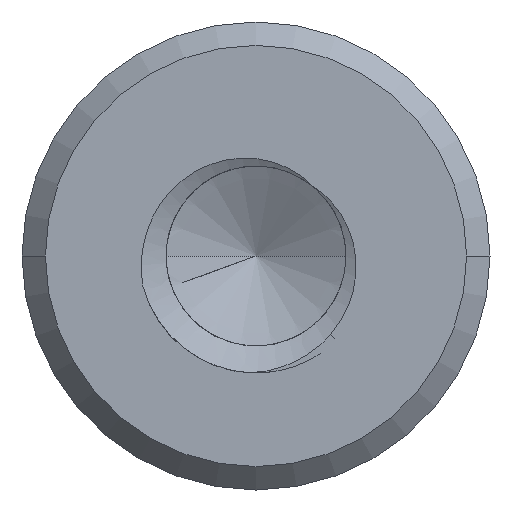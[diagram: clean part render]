
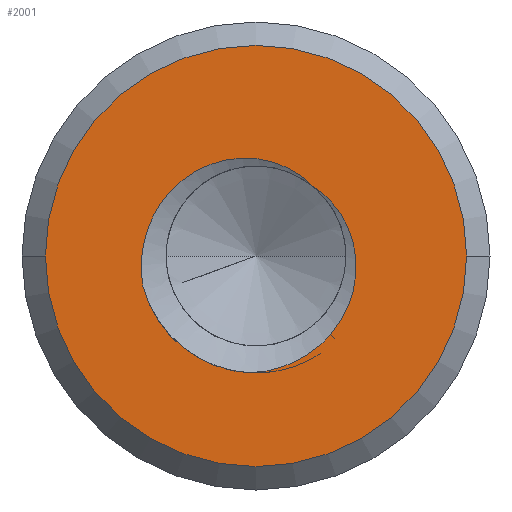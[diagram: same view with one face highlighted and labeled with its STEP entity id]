
A CAD part, front view. The second image highlights one B-rep face of the part: STEP entity #2001.
In plain terms, the highlighted planar face has unit normal (0, -1, 0).
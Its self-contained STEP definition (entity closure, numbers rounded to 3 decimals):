
#1=CARTESIAN_POINT('',(0.,-6.35,0.));
#2=DIRECTION('',(0.,-1.,0.));
#3=DIRECTION('',(1.,0.,0.));
#4=AXIS2_PLACEMENT_3D('',#1,#2,#3);
#6=CARTESIAN_POINT('',(0.,-6.35,0.));
#7=DIRECTION('',(0.,-1.,0.));
#8=DIRECTION('',(-1.,0.,0.));
#9=AXIS2_PLACEMENT_3D('',#6,#7,#8);
#11=CARTESIAN_POINT('',(0.,-6.35,0.));
#12=DIRECTION('',(0.,1.,0.));
#13=DIRECTION('',(-0.054,0.,-0.999));
#14=AXIS2_PLACEMENT_3D('',#11,#12,#13);
#1724=CARTESIAN_POINT('',(0.954,-6.35,-1.008));
#1725=CARTESIAN_POINT('',(0.991,-6.35,-0.965));
#1726=CARTESIAN_POINT('',(1.059,-6.35,-0.877));
#1727=CARTESIAN_POINT('',(1.145,-6.35,-0.731));
#1728=CARTESIAN_POINT('',(1.211,-6.35,-0.575));
#1729=CARTESIAN_POINT('',(1.257,-6.35,-0.414));
#1730=CARTESIAN_POINT('',(1.283,-6.35,-0.247));
#1731=CARTESIAN_POINT('',(1.286,-6.35,-0.067));
#1732=CARTESIAN_POINT('',(1.261,-6.35,0.128));
#1733=CARTESIAN_POINT('',(1.199,-6.35,0.338));
#1734=CARTESIAN_POINT('',(1.086,-6.35,0.555));
#1735=CARTESIAN_POINT('',(0.927,-6.35,0.748));
#1736=CARTESIAN_POINT('',(0.799,-6.35,0.85));
#1737=CARTESIAN_POINT('',(0.728,-6.35,0.895));
#1743=CARTESIAN_POINT('',(-0.081,-6.35,-1.498));
#1744=CARTESIAN_POINT('',(-0.018,-6.35,-1.495));
#1745=CARTESIAN_POINT('',(0.102,-6.35,-1.483));
#1746=CARTESIAN_POINT('',(0.265,-6.35,-1.446));
#1747=CARTESIAN_POINT('',(0.418,-6.35,-1.394));
#1748=CARTESIAN_POINT('',(0.568,-6.35,-1.323));
#1749=CARTESIAN_POINT('',(0.71,-6.35,-1.234));
#1750=CARTESIAN_POINT('',(0.842,-6.35,-1.128));
#1751=CARTESIAN_POINT('',(0.918,-6.35,-1.049));
#1752=CARTESIAN_POINT('',(0.954,-6.35,-1.008));
#1758=CARTESIAN_POINT('',(0.728,-6.35,0.895));
#1759=CARTESIAN_POINT('',(0.67,-6.35,0.955));
#1760=CARTESIAN_POINT('',(0.544,-6.35,1.06));
#1761=CARTESIAN_POINT('',(0.321,-6.35,1.177));
#1762=CARTESIAN_POINT('',(0.069,-6.35,1.247));
#1763=CARTESIAN_POINT('',(-0.189,-6.35,1.263));
#1764=CARTESIAN_POINT('',(-0.454,-6.35,1.224));
#1765=CARTESIAN_POINT('',(-0.708,-6.35,1.131));
#1766=CARTESIAN_POINT('',(-0.944,-6.35,0.983));
#1767=CARTESIAN_POINT('',(-1.138,-6.35,0.795));
#1768=CARTESIAN_POINT('',(-1.277,-6.35,0.597));
#1769=CARTESIAN_POINT('',(-1.373,-6.35,0.4));
#1770=CARTESIAN_POINT('',(-1.435,-6.35,0.205));
#1771=CARTESIAN_POINT('',(-1.468,-6.35,0.01));
#1772=CARTESIAN_POINT('',(-1.474,-6.35,-0.188));
#1773=CARTESIAN_POINT('',(-1.461,-6.35,-0.32));
#1774=CARTESIAN_POINT('',(-1.45,-6.35,-0.385));
#1955=CARTESIAN_POINT('',(2.7,-6.35,0.));
#1956=CARTESIAN_POINT('',(-2.7,-6.35,0.));
#1957=VERTEX_POINT('',#1955);
#1958=VERTEX_POINT('',#1956);
#1976=VERTEX_POINT('',#1724);
#1977=VERTEX_POINT('',#1737);
#1978=VERTEX_POINT('',#1774);
#1979=VERTEX_POINT('',#1743);
#1980=CARTESIAN_POINT('',(0.,-6.35,0.));
#1981=DIRECTION('',(0.,1.,0.));
#1982=DIRECTION('',(1.,0.,0.));
#1983=AXIS2_PLACEMENT_3D('',#1980,#1981,#1982);
#1984=PLANE('',#1983);
#1986=ORIENTED_EDGE('',*,*,#1985,.F.);
#1988=ORIENTED_EDGE('',*,*,#1987,.F.);
#1989=EDGE_LOOP('',(#1986,#1988));
#1990=FACE_OUTER_BOUND('',#1989,.F.);
#1992=ORIENTED_EDGE('',*,*,#1991,.F.);
#1994=ORIENTED_EDGE('',*,*,#1993,.T.);
#1996=ORIENTED_EDGE('',*,*,#1995,.T.);
#1998=ORIENTED_EDGE('',*,*,#1997,.T.);
#1999=EDGE_LOOP('',(#1992,#1994,#1996,#1998));
#2000=FACE_BOUND('',#1999,.F.);
#2001=ADVANCED_FACE('',(#1990,#2000),#1984,.F.);
#5=CIRCLE('',#4,2.7);
#10=CIRCLE('',#9,2.7);
#15=CIRCLE('',#14,1.5);
#1738=B_SPLINE_CURVE_WITH_KNOTS('',3,(#1724,#1725,#1726,#1727,#1728,#1729,#1730,
#1731,#1732,#1733,#1734,#1735,#1736,#1737),.UNSPECIFIED.,.F.,.F.,(4,1,1,1,1,1,1,
1,1,1,1,4),(0.,0.091,0.182,0.273,
0.364,0.455,0.545,0.636,
0.727,0.818,0.909,1.),.UNSPECIFIED.);
#1753=B_SPLINE_CURVE_WITH_KNOTS('',3,(#1743,#1744,#1745,#1746,#1747,#1748,#1749,
#1750,#1751,#1752),.UNSPECIFIED.,.F.,.F.,(4,1,1,1,1,1,1,4),(0.,
0.143,0.286,0.429,0.571,
0.714,0.857,1.),.UNSPECIFIED.);
#1775=B_SPLINE_CURVE_WITH_KNOTS('',3,(#1758,#1759,#1760,#1761,#1762,#1763,#1764,
#1765,#1766,#1767,#1768,#1769,#1770,#1771,#1772,#1773,#1774),.UNSPECIFIED.,.F.,
.F.,(4,1,1,1,1,1,1,1,1,1,1,1,1,1,4),(0.,0.071,0.143,
0.214,0.286,0.357,0.429,0.5,
0.571,0.643,0.714,0.786,
0.857,0.929,1.),.UNSPECIFIED.);
#1985=EDGE_CURVE('',#1957,#1958,#5,.T.);
#1987=EDGE_CURVE('',#1958,#1957,#10,.T.);
#1991=EDGE_CURVE('',#1979,#1978,#15,.T.);
#1993=EDGE_CURVE('',#1979,#1976,#1753,.T.);
#1995=EDGE_CURVE('',#1976,#1977,#1738,.T.);
#1997=EDGE_CURVE('',#1977,#1978,#1775,.T.);
